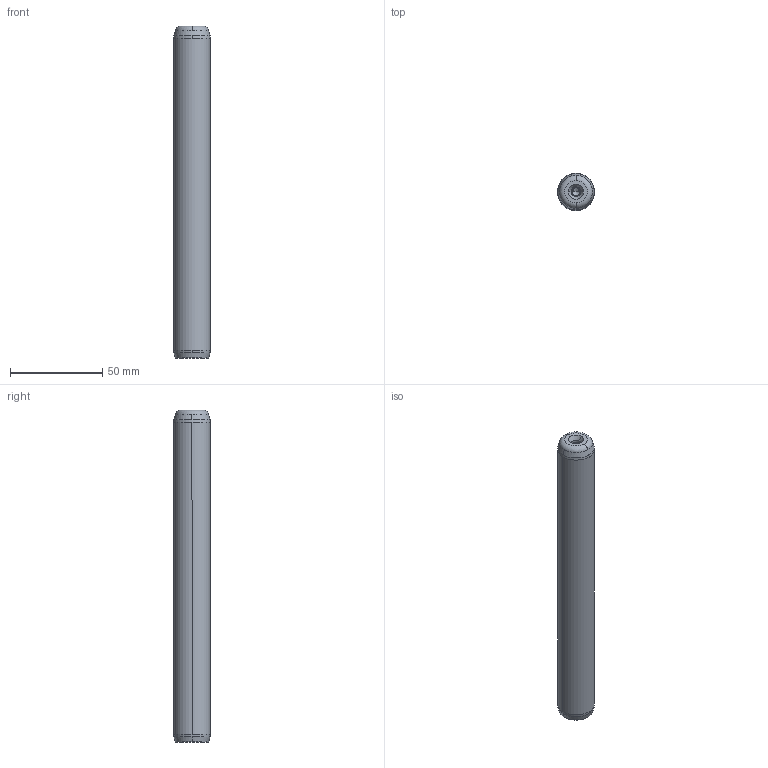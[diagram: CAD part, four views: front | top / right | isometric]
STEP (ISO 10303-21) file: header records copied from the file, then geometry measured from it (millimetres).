
FILE_DESCRIPTION((''),'2;1');
FILE_NAME('P10_020_180.stp','2008-12-23T14:29:41',(''),(''),'Mechanical Desktop 2009','Mechanical Desktop 2009',', , ');
FILE_SCHEMA(('CONFIG_CONTROL_DESIGN'));
Length unit declared in the file: millimetre
Products named in the file (5): Product; ProductAA; blmdl1; ProductA; blmdl1A
Assembly tree (2 placements, depth 3):
  Product
    ProductAA
      blmdl1
  ProductA
  blmdl1A
Bounding box: 20 x 20 x 180 mm (x, y, z)
Volume: 55798.5 mm3; surface area: 11950.2 mm2
Topology: 1 solids, 1 shells, 26 faces, 66 edges, 41 vertices
Faces by surface type: cone 10, cylinder 6, torus 4, bspline 4, plane 2
Entity records: 1172 total; most frequent: CARTESIAN_POINT 310, DIRECTION 162, ORIENTED_EDGE 128, AXIS2_PLACEMENT_3D 73, EDGE_CURVE 64, CIRCLE 48, VERTEX_POINT 41, EDGE_LOOP 27
